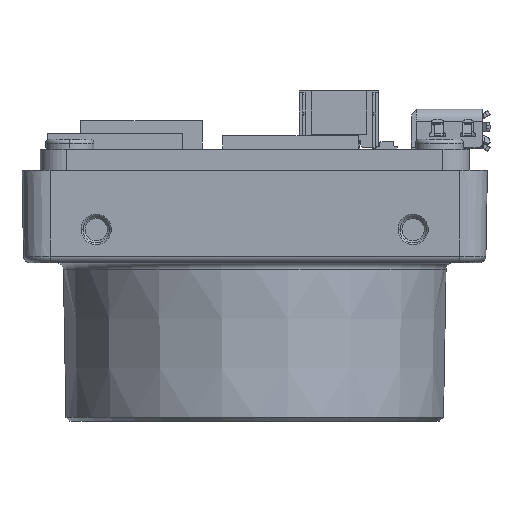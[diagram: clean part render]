
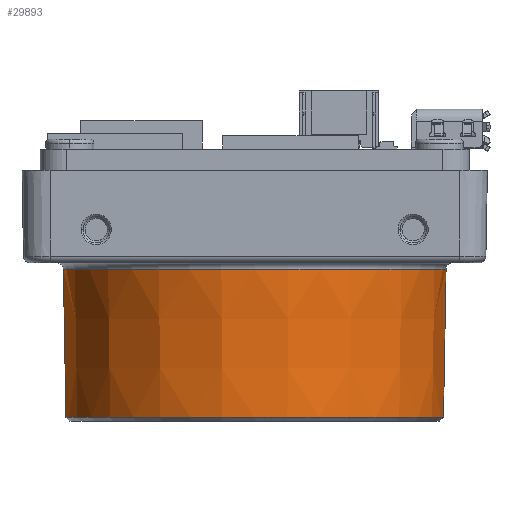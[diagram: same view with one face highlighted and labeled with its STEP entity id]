
A CAD part, front view. The second image highlights one B-rep face of the part: STEP entity #29893.
In plain terms, the highlighted conical face has half-angle 1 degrees and reference radius 14.393 mm.
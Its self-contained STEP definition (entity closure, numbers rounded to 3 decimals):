
#2238=CARTESIAN_POINT('',(0.,0.,-0.491));
#2239=DIRECTION('',(0.,0.,1.));
#2240=DIRECTION('',(-1.,0.,0.));
#2241=AXIS2_PLACEMENT_3D('',#2238,#2239,#2240);
#2243=DIRECTION('',(-0.017,0.,-1.));
#2244=VECTOR('',#2243,11.225);
#2245=CARTESIAN_POINT('',(14.491,0.,
-0.491));
#2246=LINE('',#2245,#2244);
#2247=DIRECTION('',(-0.017,0.,1.));
#2248=VECTOR('',#2247,11.225);
#2249=CARTESIAN_POINT('',(-14.296,0.,
-11.714));
#2250=LINE('',#2249,#2248);
#2251=CARTESIAN_POINT('',(0.,0.,-11.714));
#2252=DIRECTION('',(0.,0.,1.));
#2253=DIRECTION('',(-1.,0.,0.));
#2254=AXIS2_PLACEMENT_3D('',#2251,#2252,#2253);
#2256=CARTESIAN_POINT('',(0.,0.,-11.714));
#2257=DIRECTION('',(0.,0.,1.));
#2258=DIRECTION('',(0.,-1.,0.));
#2259=AXIS2_PLACEMENT_3D('',#2256,#2257,#2258);
#21734=CARTESIAN_POINT('',(14.491,0.,
-0.491));
#21735=VERTEX_POINT('',#21734);
#21736=CARTESIAN_POINT('',(-14.491,0.,
-0.491));
#21737=VERTEX_POINT('',#21736);
#21738=CARTESIAN_POINT('',(-14.296,0.,
-11.714));
#21739=VERTEX_POINT('',#21738);
#21740=CARTESIAN_POINT('',(14.296,0.,
-11.714));
#21741=VERTEX_POINT('',#21740);
#21742=CARTESIAN_POINT('',(0.,-14.296,-11.714));
#21743=VERTEX_POINT('',#21742);
#29879=CARTESIAN_POINT('',(0.,0.,-6.103));
#29880=DIRECTION('',(0.,0.,1.));
#29881=DIRECTION('',(1.,0.,0.));
#29882=AXIS2_PLACEMENT_3D('',#29879,#29880,#29881);
#29883=CONICAL_SURFACE('',#29882,14.393,1.);
#29884=ORIENTED_EDGE('',*,*,#29844,.T.);
#29885=ORIENTED_EDGE('',*,*,#29874,.T.);
#29887=ORIENTED_EDGE('',*,*,#29886,.F.);
#29889=ORIENTED_EDGE('',*,*,#29888,.F.);
#29890=ORIENTED_EDGE('',*,*,#29870,.T.);
#29891=EDGE_LOOP('',(#29884,#29885,#29887,#29889,#29890));
#29892=FACE_OUTER_BOUND('',#29891,.F.);
#29893=ADVANCED_FACE('',(#29892),#29883,.T.);
#2242=CIRCLE('',#2241,14.491);
#2255=CIRCLE('',#2254,14.296);
#2260=CIRCLE('',#2259,14.296);
#29844=EDGE_CURVE('',#21737,#21735,#2242,.T.);
#29870=EDGE_CURVE('',#21739,#21737,#2250,.T.);
#29874=EDGE_CURVE('',#21735,#21741,#2246,.T.);
#29886=EDGE_CURVE('',#21743,#21741,#2260,.T.);
#29888=EDGE_CURVE('',#21739,#21743,#2255,.T.);
